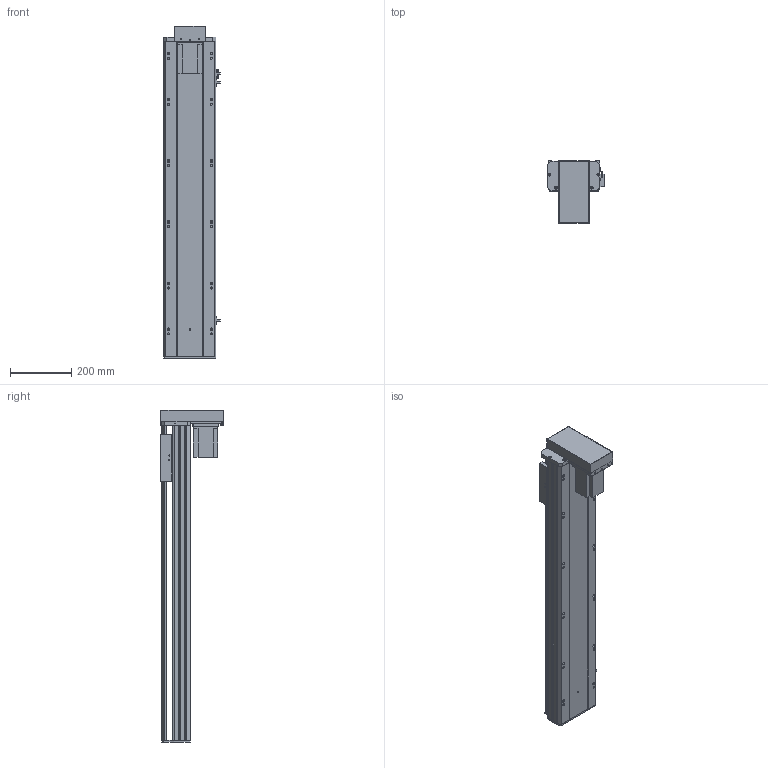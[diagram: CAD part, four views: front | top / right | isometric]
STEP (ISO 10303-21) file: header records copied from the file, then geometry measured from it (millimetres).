
FILE_DESCRIPTION (( 'STEP AP203' ), '1' );
FILE_NAME ('Y170-D10-S800-BM-P750W.STEP', '2020-01-22T03:07:45', ( '微软用户' ), ( '微软中国' ), 'SwSTEP 2.0', 'SolidWorks 2017', '' );
FILE_SCHEMA (( 'CONFIG_CONTROL_DESIGN' ));
Length unit declared in the file: millimetre
Products named in the file (12): 170-BM耜蚾蟀諉啣; Y170-BM--P750W楊擘啣; -BM俋袗; Y170耜裔--準---; YD-Y100-135-新外置传感挡片(通用）; 170--掛极-BR; Y100-135俋离換覜ん; 侂狟750W; Y170-D10-S800-BM-P750W; EGH20賑輸_蕼偞; Y雄赽釱-耜蚾; Y170-陔遴奻裔-BR
Assembly tree (14 placements, depth 2):
  Y170-D10-S800-BM-P750W
    Y170耜裔--準---
    170--掛极-BR
    侂狟750W
    EGH20賑輸_蕼偞  x2
    Y雄赽釱-耜蚾
    Y170-陔遴奻裔-BR
    170-BM耜蚾蟀諉啣
    Y170-BM--P750W楊擘啣
    -BM俋袗
    YD-Y100-135-新外置传感挡片(通用）
    Y100-135俋离換覜ん  x3
Bounding box: 183.5 x 203.5 x 1083.5 mm (x, y, z)
Volume: 5313188.1 mm3; surface area: 1807542.2 mm2
Topology: 14 solids, 14 shells, 906 faces, 2556 edges, 1686 vertices
Faces by surface type: cylinder 454, plane 436, cone 16
Entity records: 28666 total; most frequent: CARTESIAN_POINT 5071, DIRECTION 4744, ORIENTED_EDGE 4608, EDGE_CURVE 2304, AXIS2_PLACEMENT_3D 1683, VERTEX_POINT 1530, VECTOR 1378, LINE 1378
